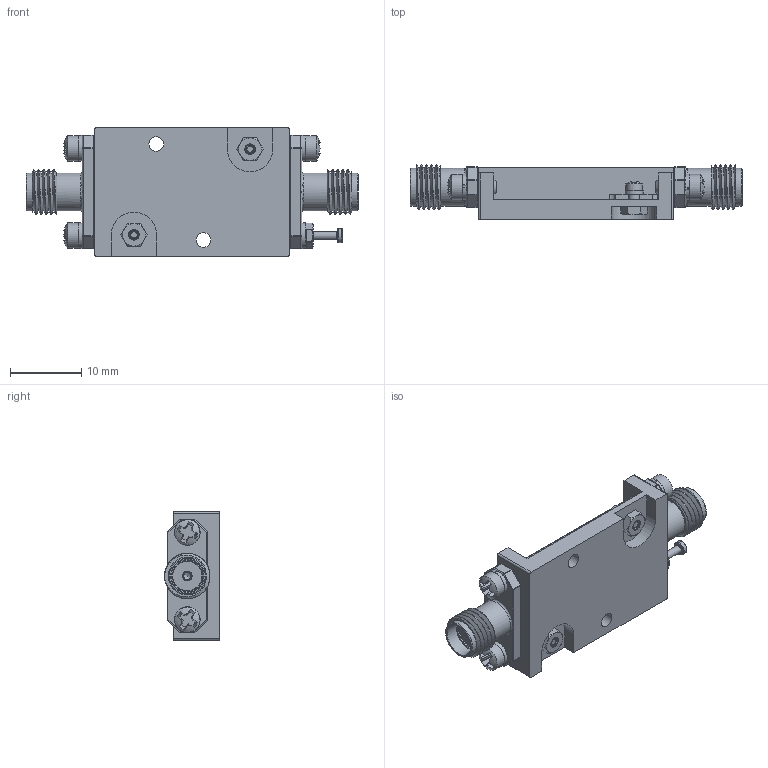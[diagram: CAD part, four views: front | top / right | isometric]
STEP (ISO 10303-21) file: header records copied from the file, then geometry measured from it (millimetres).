
FILE_DESCRIPTION (( 'STEP AP214' ), '1' );
FILE_NAME ('SDLVA-2G18G-55-12-SFF-70MV.STEP', '2026-07-28T12:36:20', ( '' ), ( '' ), 'SwSTEP 2.0', 'SolidWorks 2025', '' );
FILE_SCHEMA (( 'AUTOMOTIVE_DESIGN' ));
Length unit declared in the file: inch
Products named in the file (1): SDLVA-2G18G-55-12-SFF-70MV
Bounding box: 46.48 x 7.67 x 18.03 mm (x, y, z)
Volume: 3179.1 mm3; surface area: 4984.4 mm2
Topology: 29 solids, 29 shells, 793 faces, 2477 edges, 1850 vertices
Faces by surface type: plane 389, cylinder 185, cone 70, torus 66, sphere 63, bspline 20
Full cylindrical faces by diameter (mm): 0.305 x4, 0.381 x2, 0.635 x2, 0.711 x2, 1.016 x4, 1.067 x1, 1.18 x6, 1.27 x4, 1.295 x1, 1.524 x8, 1.575 x2, 1.6 x2, 1.702 x2, 1.93 x4, 1.956 x1, 2.007 x2, 2.057 x2, 2.184 x8, 2.286 x2, 2.515 x2, 2.591 x4, 2.896 x2, 3.175 x1, 3.302 x2, 3.556 x3, 4.191 x4, 4.597 x2, 5.283 x4
Entity records: 41808 total; most frequent: CARTESIAN_POINT 10564, ORIENTED_EDGE 4472, DIRECTION 4146, EDGE_CURVE 2236, VERTEX_POINT 1826, AXIS2_PLACEMENT_3D 1515, EDGE_LOOP 1150, LINE 1116
